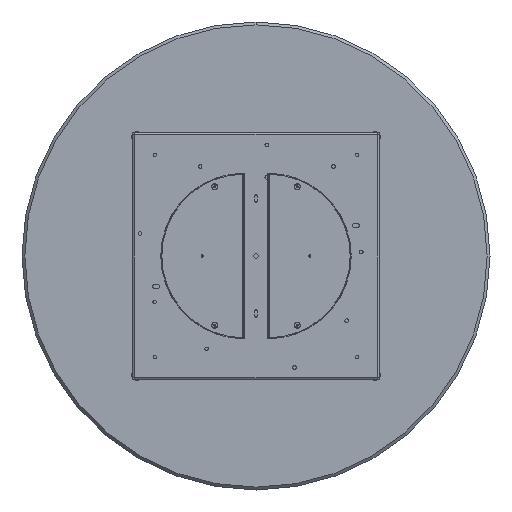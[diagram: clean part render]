
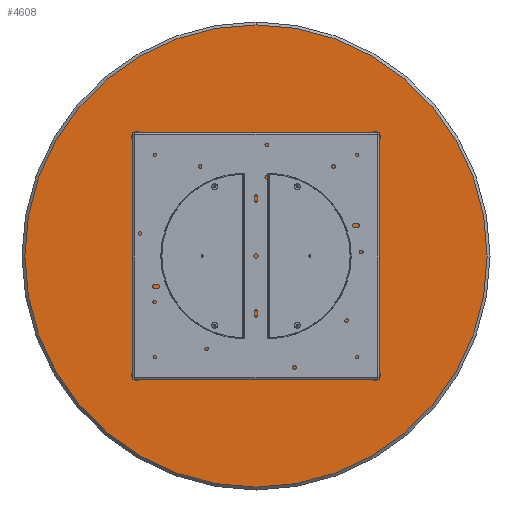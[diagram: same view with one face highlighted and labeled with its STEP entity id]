
A CAD part, front view. The second image highlights one B-rep face of the part: STEP entity #4608.
In plain terms, the highlighted planar face has unit normal (0, -1, 0).
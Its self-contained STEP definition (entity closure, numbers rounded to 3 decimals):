
#985 = PLANE ( 'NONE',  #5691 ) ;
#1148 = EDGE_CURVE ( 'NONE', #13348, #9953, #10417, .T. ) ;
#2944 = CARTESIAN_POINT ( 'NONE',  ( 0., 0., 642. ) ) ;
#3678 = EDGE_LOOP ( 'NONE', ( #6148, #8354 ) ) ;
#4201 = CARTESIAN_POINT ( 'NONE',  ( 0., 0., -642. ) ) ;
#4608 = ADVANCED_FACE ( 'NONE', ( #12540 ), #985, .T. ) ;
#4968 = DIRECTION ( 'NONE',  ( 0., 0., -1. ) ) ;
#5691 = AXIS2_PLACEMENT_3D ( 'NONE', #14905, #10335, #12475 ) ;
#6092 = CARTESIAN_POINT ( 'NONE',  ( 0., 0., 0. ) ) ;
#6148 = ORIENTED_EDGE ( 'NONE', *, *, #1148, .T. ) ;
#6608 = DIRECTION ( 'NONE',  ( 0., 0., -1. ) ) ;
#7903 = CARTESIAN_POINT ( 'NONE',  ( 0., 0., 0. ) ) ;
#8354 = ORIENTED_EDGE ( 'NONE', *, *, #8490, .T. ) ;
#8490 = EDGE_CURVE ( 'NONE', #9953, #13348, #11253, .T. ) ;
#8827 = DIRECTION ( 'NONE',  ( 0., -1., 0. ) ) ;
#8962 = AXIS2_PLACEMENT_3D ( 'NONE', #6092, #10748, #4968 ) ;
#9297 = AXIS2_PLACEMENT_3D ( 'NONE', #7903, #8827, #6608 ) ;
#9953 = VERTEX_POINT ( 'NONE', #4201 ) ;
#10335 = DIRECTION ( 'NONE',  ( 0., -1., 0. ) ) ;
#10417 = CIRCLE ( 'NONE', #8962, 642. ) ;
#10748 = DIRECTION ( 'NONE',  ( 0., -1., 0. ) ) ;
#11253 = CIRCLE ( 'NONE', #9297, 642. ) ;
#12475 = DIRECTION ( 'NONE',  ( 0., 0., -1. ) ) ;
#12540 = FACE_OUTER_BOUND ( 'NONE', #3678, .T. ) ;
#13348 = VERTEX_POINT ( 'NONE', #2944 ) ;
#14905 = CARTESIAN_POINT ( 'NONE',  ( 0., 0., 0. ) ) ;
